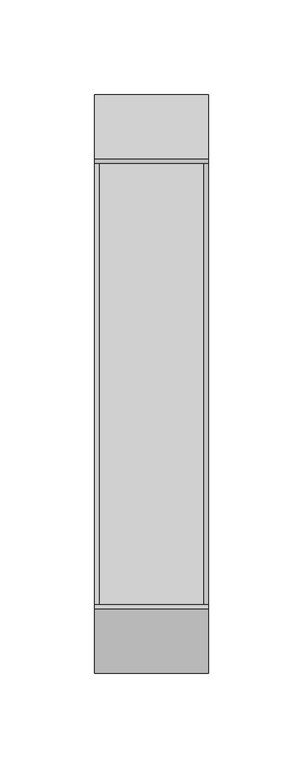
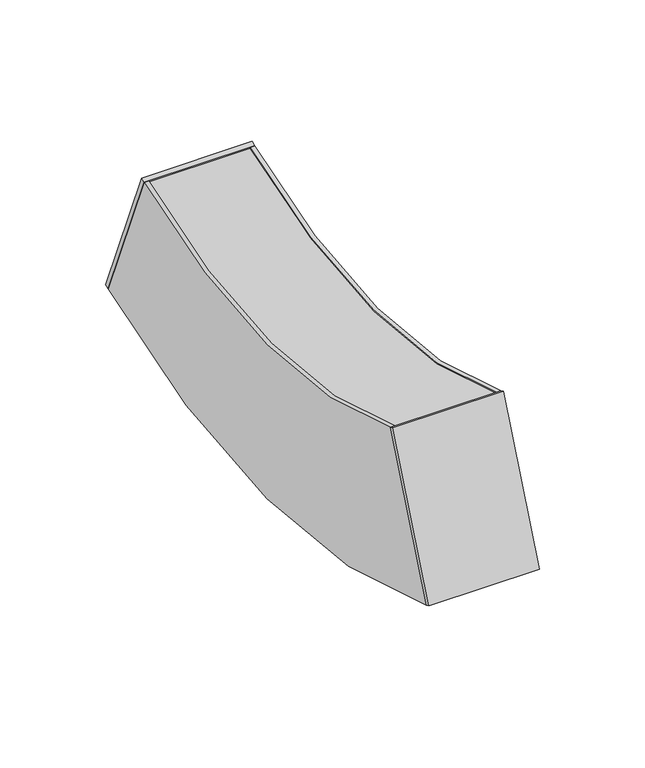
"""IFC4 building model written with IfcOpenShell, lengths in millimetres: light fixture geometry, Lighting-Recessed-Lumenwerx-Curvia_2_XYZ-INNC : CURV2PPAT-D-HLO-SW-80-350-35-1FT-INNC."""

from ifc_helpers import new_model, si_unit, point, frame, frame_2d, origin, place, context, project, spatial, polyline, circle_curve, trimmed, segment, composite_curve, outline, extrude, source, transform, mapped, element, save
from ifc_brep_helpers import plane_surface, cylinder_surface, advanced_brep


def light_fixture_f2cc6ad9(model_context):
    return source(origin(), model_context, "Body", "SolidModel", [
        extrude(outline(polyline([(0.0, -60.325), (0.0, 0.0), (2.54, 0.0), (2.54, -60.325), (0.0, -60.325)])), frame((30.1625, 888.5970611, -57.959356), z_axis=(0.0, -0.38268343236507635, 0.9238795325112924), x_axis=(0.0, -0.9238795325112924, -0.38268343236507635)), (0.0, 0.0, 1.0), 88.9),
        extrude(outline(polyline([(0.0, -60.325), (0.0, 0.0), (2.54, 0.0), (2.54, -60.325), (0.0, -60.325)])), frame((-30.1625, 582.5788184, -57.959356), z_axis=(0.0, 0.3826834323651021, 0.9238795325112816), x_axis=(0.0, 0.9238795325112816, -0.3826834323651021)), (0.0, 0.0, 1.0), 88.9),
        extrude(outline(composite_curve([segment(polyline([(852.5642234, 22.3942695), (853.5362393, 20.0476155)]), True, "CONTINUOUS"), segment(trimmed(circle_curve(frame_2d((735.5879398, 304.8)), 308.21376), [point((853.5362393, 20.0476155))], [point((617.6396402, 20.0476155))], False, "CARTESIAN"), True, "CONTINUOUS"), segment(polyline([(617.6396402, 20.0476155), (618.6116561, 22.3942695)]), True, "CONTINUOUS"), segment(trimmed(circle_curve(frame_2d((735.5879398, 304.8)), 305.67376), [point((618.6116561, 22.3942695))], [point((852.5642234, 22.3942695))], True, "CARTESIAN"), True, "CONTINUOUS")], self_intersect=False)), frame((-27.77998, 0.0, 0.0), z_axis=(1.0, 0.0, 0.0), x_axis=(0.0, 1.0, 0.0)), (0.0, 0.0, 1.0), 55.55996),
        extrude(outline(composite_curve([segment(polyline([(585.2598459, -58.124123), (586.2318618, -55.777469)]), True, "CONTINUOUS"), segment(trimmed(circle_curve(frame_2d((735.5879398, 304.8)), 390.28624), [point((586.2318618, -55.777469))], [point((884.9440177, -55.777469))], True, "CARTESIAN"), True, "CONTINUOUS"), segment(polyline([(884.9440177, -55.777469), (885.9160336, -58.124123)]), True, "CONTINUOUS"), segment(trimmed(circle_curve(frame_2d((735.5879398, 304.8)), 392.82624), [point((885.9160336, -58.124123))], [point((585.2598459, -58.124123))], False, "CARTESIAN"), True, "CONTINUOUS")], self_intersect=False)), frame((-27.77998, 0.0, 0.0), z_axis=(1.0, 0.0, 0.0), x_axis=(0.0, 1.0, 0.0)), (0.0, 0.0, 1.0), 55.55996),
        extrude(outline(composite_curve([segment(trimmed(circle_curve(frame_2d((735.5879398, 304.8)), 393.7), [point((886.2504071, -58.9313719))], [point((584.9254724, -58.9313719))], False, "CARTESIAN"), True, "CONTINUOUS"), segment(polyline([(584.9254724, -58.9313719), (618.9460296, 23.2015185)]), True, "CONTINUOUS"), segment(trimmed(circle_curve(frame_2d((735.5879398, 304.8)), 304.8), [point((618.9460296, 23.2015185))], [point((852.2298499, 23.2015185))], True, "CARTESIAN"), True, "CONTINUOUS"), segment(polyline([(852.2298499, 23.2015185), (886.2504071, -58.9313719)]), True, "CONTINUOUS")], self_intersect=False)), frame((27.77998, 0.0, 0.0), z_axis=(1.0, 0.0, 0.0), x_axis=(0.0, 1.0, 0.0)), (0.0, 0.0, 1.0), 2.38252),
        extrude(outline(composite_curve([segment(trimmed(circle_curve(frame_2d((735.5879398, 304.8)), 393.7), [point((886.2504071, -58.9313719))], [point((584.9254724, -58.9313719))], False, "CARTESIAN"), True, "CONTINUOUS"), segment(polyline([(584.9254724, -58.9313719), (618.9460296, 23.2015185)]), True, "CONTINUOUS"), segment(trimmed(circle_curve(frame_2d((735.5879398, 304.8)), 304.8), [point((618.9460296, 23.2015185))], [point((852.2298499, 23.2015185))], True, "CARTESIAN"), True, "CONTINUOUS"), segment(polyline([(852.2298499, 23.2015185), (886.2504071, -58.9313719)]), True, "CONTINUOUS")], self_intersect=False)), frame((-30.1625, 0.0, 0.0), z_axis=(1.0, 0.0, 0.0), x_axis=(0.0, 1.0, 0.0)), (0.0, 0.0, 1.0), 2.38252),
        advanced_brep(
        [(0.0, 729.2379398, -88.9), (0.0, 741.9379398, -88.9), (0.0, 741.9379398, -90.4875), (0.0, 729.2379398, -90.4875), (0.0, 735.5879398, -88.9), (0.0, 735.5879398, -90.4875)],
        [
            (0, 1, circle_curve(frame((0.0, 735.5879398, -88.9), z_axis=(0.0, 0.0, -1.0), x_axis=(0.0, 1.0, 0.0)), 6.35)),
            (1, 2),
            (2, 3, circle_curve(frame((0.0, 735.5879398, -90.4875), z_axis=(0.0, 0.0, 1.0), x_axis=(0.0, 1.0, 0.0)), 6.35)),
            (3, 0),
            (1, 0, circle_curve(frame((0.0, 735.5879398, -88.9), z_axis=(0.0, 0.0, -1.0), x_axis=(0.0, 1.0, 0.0)), 6.35)),
            (3, 2, circle_curve(frame((0.0, 735.5879398, -90.4875), z_axis=(0.0, 0.0, 1.0), x_axis=(0.0, 1.0, 0.0)), 6.35)),
            (4, 1),
            (0, 4),
            (2, 5),
            (5, 3),
        ],
        [
            cylinder_surface(frame((0.0, 735.5879398, 13.49375), z_axis=(0.0, 0.0, 1.0), x_axis=(0.0, 1.0, 0.0)), 6.35),
            plane_surface(frame((0.0, 735.5879398, -88.9), z_axis=(0.0, 0.0, 1.0), x_axis=(0.0, 1.0, 0.0))),
            plane_surface(frame((0.0, 735.5879398, -90.4875), z_axis=(0.0, 0.0, -1.0), x_axis=(0.0, 1.0, 0.0))),
        ],
        [
            (0, [[1, 2, 3, 4]]),
            (0, [[5, -4, 6, -2]]),
            (1, [[7, -1, 8]]),
            (1, [[-8, -5, -7]]),
            (2, [[-3, 9, 10]]),
            (2, [[-6, -10, -9]]),
        ],
    ),
    ])


if __name__ == "__main__":
    model = new_model("IFC4")
    model_context = context("Model", 3, world=origin())
    ifc_project = project(units=[si_unit("LENGTHUNIT", "METRE", prefix="MILLI")], contexts=[model_context])
    site = spatial("IfcSite", under=ifc_project)
    building = spatial("IfcBuilding", under=site)
    placement = place(None, origin())
    light_fixture_shape = light_fixture_f2cc6ad9(model_context)
    element("IfcLightFixture", 1, ObjectType="Lighting-Recessed-Lumenwerx-Curvia_2_XYZ-INNC : CURV2PPAT-D-HLO-SW-80-350-35-1FT-INNC", at=placement, inside=building, context=model_context, shape_type="MappedRepresentation", body=[
        mapped(light_fixture_shape, transform((0.0, 0.0, 0.0), x_axis=(1.0, 0.0, 0.0), y_axis=(0.0, 1.0, 0.0), z_axis=(0.0, 0.0, 1.0))),
    ])
    save(model, "model.ifc")
